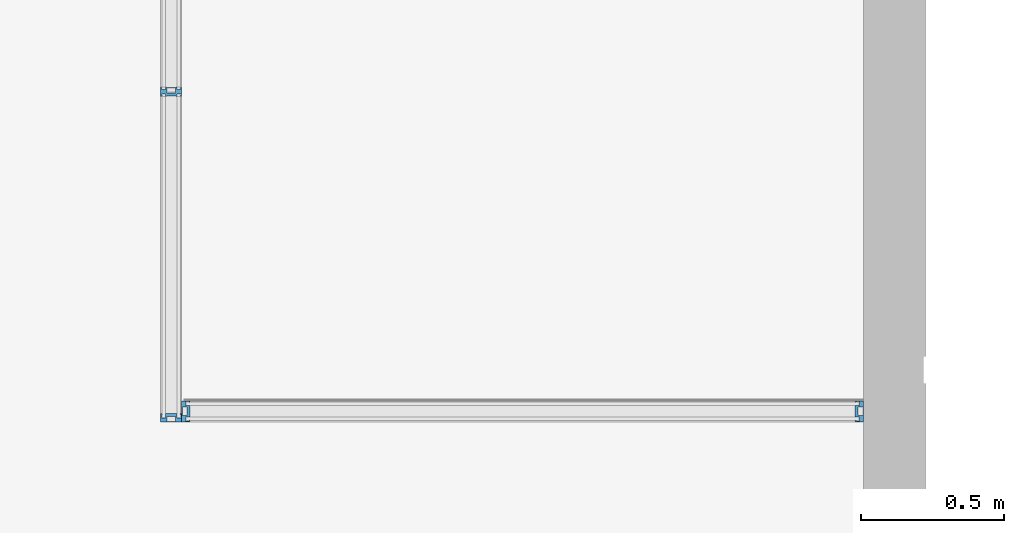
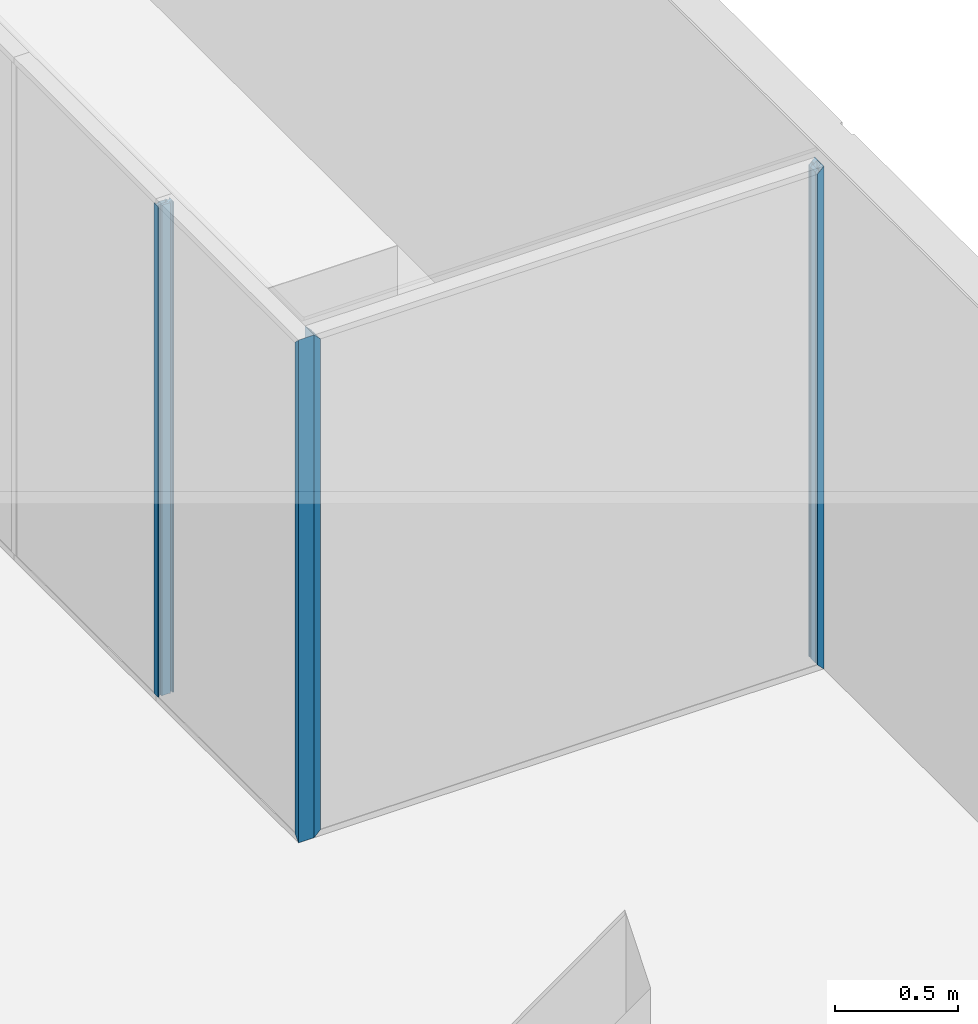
# One storey, part 4 of 79: 4 members, 2 elements without a shape of their own.
"""IFC2X3 building model written with IfcOpenShell, lengths in millimetres."""

from ifc_helpers import new_model, entity, si_unit, converted_unit, derived_unit, money_unit, direction, frame, origin_with_axes, place, context, subcontext, project, spatial, faceted_brep, source, transform, mapped, material, material_list, type_object, element, aggregate, save


model = new_model("IFC2X3")

# Units and contexts
model_context = context("Model", 3, precision=0.01, world=origin_with_axes(), true_north=direction((0.0, 1.0)))
body_context = subcontext(model_context, "Body", "Model", "MODEL_VIEW")
ifc_project = project(units=[si_unit("LENGTHUNIT", "METRE", prefix="MILLI"), si_unit("AREAUNIT", "SQUARE_METRE"), si_unit("VOLUMEUNIT", "CUBIC_METRE"), converted_unit("PLANEANGLEUNIT", "DEGREE", entity("IfcPlaneAngleMeasure", 0.0174532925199), si_unit("PLANEANGLEUNIT", "RADIAN"), dimensions=[0, 0, 0, 0, 0, 0, 0]), si_unit("SOLIDANGLEUNIT", "STERADIAN"), money_unit("EUR"), converted_unit("TIMEUNIT", "Year", entity("IfcTimeMeasure", 31556926.0), si_unit("TIMEUNIT", "SECOND"), dimensions=[0, 0, 1, 0, 0, 0, 0]), si_unit("MASSUNIT", "GRAM", prefix="KILO"), si_unit("THERMODYNAMICTEMPERATUREUNIT", "DEGREE_CELSIUS"), si_unit("LUMINOUSINTENSITYUNIT", "LUMEN"), si_unit("ENERGYUNIT", "JOULE", prefix="MEGA"), derived_unit("THERMALCONDUCTANCEUNIT", [(si_unit("POWERUNIT", "WATT"), 1), (si_unit("LENGTHUNIT", "METRE"), -1), (si_unit("THERMODYNAMICTEMPERATUREUNIT", "KELVIN"), -1)]), derived_unit("SPECIFICHEATCAPACITYUNIT", [(si_unit("ENERGYUNIT", "JOULE"), 1), (si_unit("MASSUNIT", "GRAM", prefix="KILO"), -1), (si_unit("THERMODYNAMICTEMPERATUREUNIT", "KELVIN"), -1)]), derived_unit("MASSDENSITYUNIT", [(si_unit("MASSUNIT", "GRAM", prefix="KILO"), 1), (si_unit("VOLUMEUNIT", "CUBIC_METRE"), -1)])], contexts=[model_context])

# Site, building, storey
site_placement = place(None, origin_with_axes())
site = spatial("IfcSite", under=ifc_project, at=site_placement, Name="L.Koidula tn 11b", CompositionType="ELEMENT")
building_placement = place(site_placement, origin_with_axes())
building = spatial("IfcBuilding", under=site, at=building_placement, Name="Rakvere Riigigümnaasium", CompositionType="ELEMENT")
storey_placement = place(building_placement, frame((0.0, 0.0, 3720.0), z_axis=(0.0, 0.0, 1.0), x_axis=(1.0, 0.0, 0.0)))
storey = spatial("IfcBuildingStorey", under=building, at=storey_placement, Name="2.korrus +3,72", CompositionType="ELEMENT", Elevation=3720.0)

# Curtain wall, member
curtain_wall_type = type_object("IfcCurtainWallType", Name="Curtain Wall Type", PredefinedType="NOTDEFINED")
curtain_wall_1_placement = place(storey_placement, frame((44568.0000786, 20404.7190306, -3.55964617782e-05), z_axis=(0.0, 0.0, 1.0), x_axis=(1.0, 0.0, 0.0)))
curtain_wall_1 = element("IfcCurtainWall", 1, at=curtain_wall_1_placement, inside=storey, type_object=curtain_wall_type, Name="SKLF-17")
ifc_material_1 = material(Name="Klaasvill")
ifc_material_2 = material(Name="Teras RAL7012")
ifc_material_list = material_list([ifc_material_1, ifc_material_2])
member_type_1 = type_object("IfcMemberType", Name="Siseklaasfassaad-Vaheprofiil-Doubleline30 34 x 42", PredefinedType="MULLION")
shared_shape_1 = source(origin_with_axes(), body_context, "Body", "Brep", [
    faceted_brep([(12.004489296, 27.0307503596, 30.0000193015), (12.004489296, 27.0307503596, 2463.00001629), (11.987414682, 29.0161444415, 2463.00001629), (11.987414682, 29.0161444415, 30.0000193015), (12.742237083, 26.2930025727, 30.0000193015), (12.742237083, 26.2930025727, 2463.00001629), (13.7500193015, 26.0229681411, 2463.00001629), (14.75780152, 26.2930025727, 2463.00001629), (15.4955493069, 27.0307503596, 2463.00001629), (15.7655837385, 28.0385325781, 2463.00001629), (15.5126239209, 29.0161444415, 2463.00001629), (15.5126239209, 29.0161444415, 30.0000193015), (15.7655837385, 28.0385325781, 30.0000193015), (15.4955493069, 27.0307503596, 30.0000193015), (14.75780152, 26.2930025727, 30.0000193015), (13.7500193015, 26.0229681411, 30.0000193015)], [[[0, 1, 2, 3]], [[4, 5, 1, 0]], [[2, 1, 5, 6, 7, 8, 9, 10]], [[3, 2, 10, 11]], [[3, 11, 12, 13, 14, 15, 4, 0]], [[15, 6, 5, 4]], [[14, 7, 6, 15]], [[13, 8, 7, 14]], [[12, 9, 8, 13]], [[11, 10, 9, 12]]]),
    faceted_brep([(15.4955493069, -37.0307503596, 30.0000193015), (15.4955493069, -37.0307503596, 2463.00001629), (15.5126239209, -39.0161444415, 2463.00001629), (15.5126239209, -39.0161444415, 30.0000193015), (14.75780152, -36.2930025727, 30.0000193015), (14.75780152, -36.2930025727, 2463.00001629), (13.7500193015, -36.0229681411, 2463.00001629), (12.742237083, -36.2930025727, 2463.00001629), (12.004489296, -37.0307503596, 2463.00001629), (11.7344548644, -38.0385325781, 2463.00001629), (11.987414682, -39.0161444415, 2463.00001629), (11.987414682, -39.0161444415, 30.0000193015), (11.7344548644, -38.0385325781, 30.0000193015), (12.004489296, -37.0307503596, 30.0000193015), (12.742237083, -36.2930025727, 30.0000193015), (13.7500193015, -36.0229681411, 30.0000193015)], [[[0, 1, 2, 3]], [[4, 5, 1, 0]], [[2, 1, 5, 6, 7, 8, 9, 10]], [[3, 2, 10, 11]], [[3, 11, 12, 13, 14, 15, 4, 0]], [[15, 6, 5, 4]], [[14, 7, 6, 15]], [[13, 8, 7, 14]], [[12, 9, 8, 13]], [[11, 10, 9, 12]]]),
    faceted_brep([(-15.7655837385, 28.0385325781, 30.0000193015), (-15.7655837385, 28.0385325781, 2463.00001629), (-11.987414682, 29.0161444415, 2463.00001629), (-11.987414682, 29.0161444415, 30.0000193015), (-15.4955493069, 27.0307503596, 30.0000193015), (-15.4955493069, 27.0307503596, 2463.00001629), (-14.75780152, 26.2930025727, 2463.00001629), (-13.7500193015, 26.0229681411, 2463.00001629), (-12.742237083, 26.2930025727, 2463.00001629), (-12.004489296, 27.0307503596, 2463.00001629), (-11.7344548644, 28.0385325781, 2463.00001629), (-11.7344548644, 28.0385325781, 30.0000193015), (-12.004489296, 27.0307503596, 30.0000193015), (-12.742237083, 26.2930025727, 30.0000193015), (-13.7500193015, 26.0229681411, 30.0000193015), (-14.75780152, 26.2930025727, 30.0000193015)], [[[0, 1, 2, 3]], [[4, 5, 1, 0]], [[2, 1, 5, 6, 7, 8, 9, 10]], [[3, 2, 10, 11]], [[3, 11, 12, 13, 14, 15, 4, 0]], [[15, 6, 5, 4]], [[14, 7, 6, 15]], [[13, 8, 7, 14]], [[12, 9, 8, 13]], [[11, 10, 9, 12]]]),
    faceted_brep([(-15.5126239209, -39.0161444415, 30.0000193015), (-15.5126239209, -39.0161444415, 2463.00001629), (-15.4955493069, -37.0307503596, 2463.00001629), (-15.4955493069, -37.0307503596, 30.0000193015), (-11.987414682, -39.0161444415, 30.0000193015), (-11.987414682, -39.0161444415, 2463.00001629), (-11.7344548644, -38.0385325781, 2463.00001629), (-12.004489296, -37.0307503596, 2463.00001629), (-12.742237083, -36.2930025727, 2463.00001629), (-13.7500193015, -36.0229681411, 2463.00001629), (-14.75780152, -36.2930025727, 2463.00001629), (-14.75780152, -36.2930025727, 30.0000193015), (-13.7500193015, -36.0229681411, 30.0000193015), (-12.742237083, -36.2930025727, 30.0000193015), (-12.004489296, -37.0307503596, 30.0000193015), (-11.7344548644, -38.0385325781, 30.0000193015)], [[[0, 1, 2, 3]], [[4, 5, 1, 0]], [[2, 1, 5, 6, 7, 8, 9, 10]], [[3, 2, 10, 11]], [[3, 11, 12, 13, 14, 15, 4, 0]], [[15, 6, 5, 4]], [[14, 7, 6, 15]], [[13, 8, 7, 14]], [[12, 9, 8, 13]], [[11, 10, 9, 12]]]),
    faceted_brep([(-3.08905781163e-07, -22.0000000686, 30.0000193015), (-3.08905781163e-07, -22.0000000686, 2463.00001629), (-14.8000001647, -22.0000000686, 2463.00001629), (-14.8000001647, -22.0000000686, 30.0000193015), (14.8000003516, -22.0000000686, 30.0000193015), (14.8000003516, -22.0000000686, 2463.00001629), (14.8000003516, 12.0000001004, 2463.00001629), (-3.08905781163e-07, 12.0000001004, 2463.00001629), (-14.8000001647, 12.0000001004, 2463.00001629), (-12.8000002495, 10.0000001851, 2463.00001629), (4.0000003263, 10.0000001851, 2463.00001629), (4.0000003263, -20.0000001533, 2463.00001629), (-12.8000002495, -20.0000001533, 2463.00001629), (-14.8000001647, 12.0000001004, 30.0000193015), (-3.08905781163e-07, 12.0000001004, 30.0000193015), (14.8000003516, 12.0000001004, 30.0000193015), (-12.8000002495, 10.0000001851, 30.0000193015), (-12.8000002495, -20.0000001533, 30.0000193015), (4.0000003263, -20.0000001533, 30.0000193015), (4.0000003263, 10.0000001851, 30.0000193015)], [[[0, 1, 2, 3]], [[4, 5, 1, 0]], [[2, 1, 5, 6, 7, 8], [9, 10, 11, 12]], [[3, 2, 8, 13]], [[3, 13, 14, 15, 4, 0], [16, 17, 18, 19]], [[15, 6, 5, 4]], [[14, 7, 6, 15]], [[13, 8, 7, 14]], [[19, 10, 9, 16]], [[18, 11, 10, 19]], [[17, 12, 11, 18]], [[16, 9, 12, 17]]]),
    faceted_brep([(0.0, 12.0, 30.0000193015), (0.0, 12.0, 2463.00001629), (0.0, 32.0000000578, 2463.00001629), (0.0, 32.0000000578, 30.0000193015), (14.8000003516, 12.0000001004, 30.0000193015), (14.8000003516, 12.0000001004, 2463.00001629), (17.0000193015, 12.0, 2463.00001629), (17.0000193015, 15.0000000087, 2463.00001629), (7.50000002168, 15.0000000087, 2463.00001629), (7.50000002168, 29.0161446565, 2463.00001629), (11.987414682, 29.0161444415, 2463.00001629), (15.5126239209, 29.0161444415, 2463.00001629), (17.0000193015, 29.0161446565, 2463.00001629), (17.0000193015, 32.0000000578, 2463.00001629), (17.0000193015, 32.0000000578, 30.0000193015), (17.0000193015, 29.0161446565, 30.0000193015), (15.5126239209, 29.0161444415, 30.0000193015), (11.987414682, 29.0161444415, 30.0000193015), (7.50000002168, 29.0161446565, 30.0000193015), (7.50000002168, 15.0000000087, 30.0000193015), (17.0000193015, 15.0000000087, 30.0000193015), (17.0000193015, 12.0, 30.0000193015)], [[[0, 1, 2, 3]], [[4, 5, 1, 0]], [[2, 1, 5, 6, 7, 8, 9, 10, 11, 12, 13]], [[3, 2, 13, 14]], [[3, 14, 15, 16, 17, 18, 19, 20, 21, 4, 0]], [[21, 6, 5, 4]], [[20, 7, 6, 21]], [[19, 8, 7, 20]], [[18, 9, 8, 19]], [[17, 10, 9, 18]], [[16, 11, 10, 17]], [[15, 12, 11, 16]], [[14, 13, 12, 15]]]),
    faceted_brep([(0.0, -42.0, 30.0000193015), (0.0, -42.0, 2463.00001629), (0.0, -21.9999999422, 2463.00001629), (0.0, -21.9999999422, 30.0000193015), (17.0000193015, -42.0, 30.0000193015), (17.0000193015, -42.0, 2463.00001629), (17.0000193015, -39.0161445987, 2463.00001629), (15.5126239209, -39.0161444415, 2463.00001629), (11.987414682, -39.0161444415, 2463.00001629), (7.50000002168, -39.0161445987, 2463.00001629), (7.50000002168, -24.9999999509, 2463.00001629), (17.0000193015, -24.9999999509, 2463.00001629), (17.0000193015, -21.9999999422, 2463.00001629), (14.8000003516, -22.0000000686, 2463.00001629), (14.8000003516, -22.0000000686, 30.0000193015), (17.0000193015, -21.9999999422, 30.0000193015), (17.0000193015, -24.9999999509, 30.0000193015), (7.50000002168, -24.9999999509, 30.0000193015), (7.50000002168, -39.0161445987, 30.0000193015), (11.987414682, -39.0161444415, 30.0000193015), (15.5126239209, -39.0161444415, 30.0000193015), (17.0000193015, -39.0161445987, 30.0000193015)], [[[0, 1, 2, 3]], [[4, 5, 1, 0]], [[2, 1, 5, 6, 7, 8, 9, 10, 11, 12, 13]], [[3, 2, 13, 14]], [[3, 14, 15, 16, 17, 18, 19, 20, 21, 4, 0]], [[21, 6, 5, 4]], [[20, 7, 6, 21]], [[19, 8, 7, 20]], [[18, 9, 8, 19]], [[17, 10, 9, 18]], [[16, 11, 10, 17]], [[15, 12, 11, 16]], [[14, 13, 12, 15]]]),
    faceted_brep([(0.0, 32.0, 30.0000193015), (0.0, 32.0, 2463.00001629), (0.0, 12.0, 2463.00001629), (0.0, 12.0, 30.0000193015), (-17.0000193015, 32.0, 30.0000193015), (-17.0000193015, 32.0, 2463.00001629), (-17.0000193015, 29.0161444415, 2463.00001629), (-15.5126239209, 29.0161444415, 2463.00001629), (-11.987414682, 29.0161444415, 2463.00001629), (-7.49999999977, 29.0161444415, 2463.00001629), (-7.49999999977, 15.0, 2463.00001629), (-17.0000193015, 15.0, 2463.00001629), (-17.0000193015, 12.0, 2463.00001629), (-14.8000001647, 12.0000001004, 2463.00001629), (-14.8000001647, 12.0000001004, 30.0000193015), (-17.0000193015, 12.0, 30.0000193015), (-17.0000193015, 15.0, 30.0000193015), (-7.49999999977, 15.0, 30.0000193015), (-7.49999999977, 29.0161444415, 30.0000193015), (-11.987414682, 29.0161444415, 30.0000193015), (-15.5126239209, 29.0161444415, 30.0000193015), (-17.0000193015, 29.0161444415, 30.0000193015)], [[[0, 1, 2, 3]], [[4, 5, 1, 0]], [[2, 1, 5, 6, 7, 8, 9, 10, 11, 12, 13]], [[3, 2, 13, 14]], [[3, 14, 15, 16, 17, 18, 19, 20, 21, 4, 0]], [[21, 6, 5, 4]], [[20, 7, 6, 21]], [[19, 8, 7, 20]], [[18, 9, 8, 19]], [[17, 10, 9, 18]], [[16, 11, 10, 17]], [[15, 12, 11, 16]], [[14, 13, 12, 15]]]),
    faceted_brep([(-14.8000001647, -22.0000000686, 30.0000193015), (-14.8000001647, -22.0000000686, 2463.00001629), (0.0, -22.0, 2463.00001629), (0.0, -22.0, 30.0000193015), (-17.0000193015, -22.0, 30.0000193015), (-17.0000193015, -22.0, 2463.00001629), (-17.0000193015, -25.0, 2463.00001629), (-7.49999999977, -25.0, 2463.00001629), (-7.49999999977, -39.0161444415, 2463.00001629), (-11.987414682, -39.0161444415, 2463.00001629), (-15.5126239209, -39.0161444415, 2463.00001629), (-17.0000193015, -39.0161444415, 2463.00001629), (-17.0000193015, -42.0, 2463.00001629), (0.0, -42.0, 2463.00001629), (0.0, -42.0, 30.0000193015), (-17.0000193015, -42.0, 30.0000193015), (-17.0000193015, -39.0161444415, 30.0000193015), (-15.5126239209, -39.0161444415, 30.0000193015), (-11.987414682, -39.0161444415, 30.0000193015), (-7.49999999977, -39.0161444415, 30.0000193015), (-7.49999999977, -25.0, 30.0000193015), (-17.0000193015, -25.0, 30.0000193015)], [[[0, 1, 2, 3]], [[4, 5, 1, 0]], [[2, 1, 5, 6, 7, 8, 9, 10, 11, 12, 13]], [[3, 2, 13, 14]], [[3, 14, 15, 16, 17, 18, 19, 20, 21, 4, 0]], [[21, 6, 5, 4]], [[20, 7, 6, 21]], [[19, 8, 7, 20]], [[18, 9, 8, 19]], [[17, 10, 9, 18]], [[16, 11, 10, 17]], [[15, 12, 11, 16]], [[14, 13, 12, 15]]]),
])
member_1_placement = place(curtain_wall_1_placement, frame((0.0, 578.5, 0.0), z_axis=(0.0, 0.0, 1.0), x_axis=(0.0, -1.0, 0.0)))
member_1 = element("IfcMember", 2, at=member_1_placement, type_object=member_type_1, material=ifc_material_list, Name="Frame-Siseklaasf-251", ObjectType="MULLION", context=body_context, shape_type="MappedRepresentation", body=[
    mapped(shared_shape_1, transform((0.0, 0.0, 0.0))),
])

curtain_wall_2_placement = place(storey_placement, frame((45794.9999935, 19868.2190306, 0.0), z_axis=(0.0, 0.0, 1.0), x_axis=(1.0, 0.0, 0.0)))
curtain_wall_2 = element("IfcCurtainWall", 3, at=curtain_wall_2_placement, inside=storey, type_object=curtain_wall_type, Name="SKLF-18")
member_type_2 = type_object("IfcMemberType", Name="Boundary Frame 30 x 42", PredefinedType="MULLION")
shared_shape_2 = source(origin_with_axes(), body_context, "Body", "Brep", [
    faceted_brep([(-13.8499999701, 15.000000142, 13.8499999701), (-7.49999990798, 15.000000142, 7.49999990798), (-7.49999990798, 15.000000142, 2485.50003569), (-13.8499999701, 15.000000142, 2479.15003563), (-13.8499999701, 29.0161444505, 13.8499999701), (-7.49999990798, 29.0161444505, 7.49999990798), (-7.49999990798, 29.0161444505, 2485.50003569), (-13.8499999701, 29.0161444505, 2479.15003563)], [[[0, 1, 2, 3]], [[1, 0, 4, 5]], [[1, 5, 6, 2]], [[2, 6, 7, 3]], [[4, 0, 3, 7]], [[5, 4, 7, 6]]]),
    faceted_brep([(-25.004489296, 27.0307503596, 25.004489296), (-24.987414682, 29.0161444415, 24.987414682), (-24.987414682, 29.0161444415, 2468.01262091), (-25.004489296, 27.0307503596, 2467.9955463), (-25.742237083, 26.2930025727, 25.742237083), (-26.7500193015, 26.0229681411, 26.7500193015), (-27.75780152, 26.2930025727, 27.75780152), (-28.4955493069, 27.0307503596, 28.4955493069), (-28.7655837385, 28.0385325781, 28.7655837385), (-28.5126239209, 29.0161444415, 28.5126239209), (-28.5126239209, 29.0161444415, 2464.48741168), (-28.7655837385, 28.0385325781, 2464.23445186), (-28.4955493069, 27.0307503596, 2464.50448629), (-27.75780152, 26.2930025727, 2465.24223408), (-26.7500193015, 26.0229681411, 2466.25001629), (-25.742237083, 26.2930025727, 2467.25779851)], [[[0, 1, 2, 3]], [[1, 0, 4, 5, 6, 7, 8, 9]], [[1, 9, 10, 2]], [[2, 10, 11, 12, 13, 14, 15, 3]], [[4, 0, 3, 15]], [[5, 4, 15, 14]], [[6, 5, 14, 13]], [[7, 6, 13, 12]], [[8, 7, 12, 11]], [[9, 8, 11, 10]]]),
    faceted_brep([(-7.49999990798, -39.0161445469, 7.49999990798), (-7.49999990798, -24.9999997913, 7.49999990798), (-7.49999990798, -24.9999997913, 2485.50003569), (-7.49999990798, -39.0161445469, 2485.50003569), (-13.8499999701, -39.0161445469, 13.8499999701), (-13.8499999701, -24.9999997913, 13.8499999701), (-13.8499999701, -24.9999997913, 2479.15003563), (-13.8499999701, -39.0161445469, 2479.15003563)], [[[0, 1, 2, 3]], [[1, 0, 4, 5]], [[1, 5, 6, 2]], [[2, 6, 7, 3]], [[4, 0, 3, 7]], [[5, 4, 7, 6]]]),
    faceted_brep([(-24.987414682, -39.0161444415, 24.987414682), (-25.004489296, -37.0307503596, 25.004489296), (-25.004489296, -37.0307503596, 2467.9955463), (-24.987414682, -39.0161444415, 2468.01262091), (-28.5126239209, -39.0161444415, 28.5126239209), (-28.7655837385, -38.0385325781, 28.7655837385), (-28.4955493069, -37.0307503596, 28.4955493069), (-27.75780152, -36.2930025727, 27.75780152), (-26.7500193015, -36.0229681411, 26.7500193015), (-25.742237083, -36.2930025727, 25.742237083), (-25.742237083, -36.2930025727, 2467.25779851), (-26.7500193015, -36.0229681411, 2466.25001629), (-27.75780152, -36.2930025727, 2465.24223408), (-28.4955493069, -37.0307503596, 2464.50448629), (-28.7655837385, -38.0385325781, 2464.23445186), (-28.5126239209, -39.0161444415, 2464.48741168)], [[[0, 1, 2, 3]], [[1, 0, 4, 5, 6, 7, 8, 9]], [[1, 9, 10, 2]], [[2, 10, 11, 12, 13, 14, 15, 3]], [[4, 0, 3, 15]], [[5, 4, 15, 14]], [[6, 5, 14, 13]], [[7, 6, 13, 12]], [[8, 7, 12, 11]], [[9, 8, 11, 10]]]),
    faceted_brep([(-29.5999996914, -22.0000000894, 29.5999996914), (0.0, -22.0000000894, 0.0), (0.0, -22.0000000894, 2493.0000356), (-29.5999996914, -22.0000000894, 2463.40003591), (-29.5999996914, 12.0000000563, 29.5999996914), (0.0, 12.0000000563, 0.0), (-1.9999999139, 10.0000001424, 1.9999999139), (-18.7999996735, 10.0000001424, 18.7999996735), (-18.7999996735, -20.0000001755, 18.7999996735), (-1.9999999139, -20.0000001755, 1.9999999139), (0.0, 12.0000000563, 2493.0000356), (-29.5999996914, 12.0000000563, 2463.40003591), (-1.9999999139, 10.0000001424, 2491.00003568), (-1.9999999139, -20.0000001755, 2491.00003568), (-18.7999996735, -20.0000001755, 2474.20003592), (-18.7999996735, 10.0000001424, 2474.20003592)], [[[0, 1, 2, 3]], [[1, 0, 4, 5], [6, 7, 8, 9]], [[1, 5, 10, 2]], [[2, 10, 11, 3], [12, 13, 14, 15]], [[4, 0, 3, 11]], [[5, 4, 11, 10]], [[7, 6, 12, 15]], [[8, 7, 15, 14]], [[9, 8, 14, 13]], [[6, 9, 13, 12]]]),
    faceted_brep([(-29.5999996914, 12.0000000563, 29.5999996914), (0.0, 12.0, 0.0), (0.0, 12.0, 2493.0000356), (-29.5999996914, 12.0000000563, 2463.40003591), (-30.0000193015, 12.0, 30.0000193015), (-30.0000193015, 15.0, 30.0000193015), (-13.8499999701, 15.000000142, 13.8499999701), (-7.49999999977, 15.0, 7.49999999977), (-7.49999999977, 29.0161444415, 7.49999999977), (-13.8499999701, 29.0161444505, 13.8499999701), (-24.987414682, 29.0161444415, 24.987414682), (-28.5126239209, 29.0161444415, 28.5126239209), (-30.0000193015, 29.0161444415, 30.0000193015), (-30.0000193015, 32.0, 30.0000193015), (0.0, 32.0, 0.0), (0.0, 32.0, 2493.0000356), (-30.0000193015, 32.0, 2463.00001629), (-30.0000193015, 29.0161444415, 2463.00001629), (-28.5126239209, 29.0161444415, 2464.48741168), (-24.987414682, 29.0161444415, 2468.01262091), (-13.8499999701, 29.0161444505, 2479.15003563), (-7.49999999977, 29.0161444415, 2485.5000356), (-7.49999999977, 15.0, 2485.5000356), (-13.8499999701, 15.000000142, 2479.15003563), (-30.0000193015, 15.0, 2463.00001629), (-30.0000193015, 12.0, 2463.00001629)], [[[0, 1, 2, 3]], [[1, 0, 4, 5, 6, 7, 8, 9, 10, 11, 12, 13, 14]], [[1, 14, 15, 2]], [[2, 15, 16, 17, 18, 19, 20, 21, 22, 23, 24, 25, 3]], [[4, 0, 3, 25]], [[5, 4, 25, 24]], [[6, 5, 24, 23]], [[7, 6, 23, 22]], [[8, 7, 22, 21]], [[9, 8, 21, 20]], [[10, 9, 20, 19]], [[11, 10, 19, 18]], [[12, 11, 18, 17]], [[13, 12, 17, 16]], [[14, 13, 16, 15]]]),
    faceted_brep([(0.0, -42.0, 0.0), (0.0, -22.0, 0.0), (0.0, -22.0, 2493.0000356), (0.0, -42.0, 2493.0000356), (-30.0000193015, -42.0, 30.0000193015), (-30.0000193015, -39.0161444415, 30.0000193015), (-28.5126239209, -39.0161444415, 28.5126239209), (-24.987414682, -39.0161444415, 24.987414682), (-13.8499999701, -39.0161445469, 13.8499999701), (-7.49999999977, -39.0161444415, 7.49999999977), (-7.49999999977, -25.0, 7.49999999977), (-13.8499999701, -24.9999997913, 13.8499999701), (-30.0000193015, -25.0, 30.0000193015), (-30.0000193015, -22.0, 30.0000193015), (-29.5999996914, -22.0000000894, 29.5999996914), (-29.5999996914, -22.0000000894, 2463.40003591), (-30.0000193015, -22.0, 2463.00001629), (-30.0000193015, -25.0, 2463.00001629), (-13.8499999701, -24.9999997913, 2479.15003563), (-7.49999999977, -25.0, 2485.5000356), (-7.49999999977, -39.0161444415, 2485.5000356), (-13.8499999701, -39.0161445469, 2479.15003563), (-24.987414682, -39.0161444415, 2468.01262091), (-28.5126239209, -39.0161444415, 2464.48741168), (-30.0000193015, -39.0161444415, 2463.00001629), (-30.0000193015, -42.0, 2463.00001629)], [[[0, 1, 2, 3]], [[1, 0, 4, 5, 6, 7, 8, 9, 10, 11, 12, 13, 14]], [[1, 14, 15, 2]], [[2, 15, 16, 17, 18, 19, 20, 21, 22, 23, 24, 25, 3]], [[4, 0, 3, 25]], [[5, 4, 25, 24]], [[6, 5, 24, 23]], [[7, 6, 23, 22]], [[8, 7, 22, 21]], [[9, 8, 21, 20]], [[10, 9, 20, 19]], [[11, 10, 19, 18]], [[12, 11, 18, 17]], [[13, 12, 17, 16]], [[14, 13, 16, 15]]]),
])
member_2_placement = place(curtain_wall_2_placement, frame((1195.0, 0.0, 0.0), z_axis=(0.0, 0.0, 1.0), x_axis=(1.0, 0.0, 0.0)))
member_2 = element("IfcMember", 4, at=member_2_placement, type_object=member_type_2, material=ifc_material_list, Name="SKLF-18-raam", ObjectType="MULLION", context=body_context, shape_type="MappedRepresentation", body=[
    mapped(shared_shape_2, transform((0.0, 0.0, 0.0))),
])

# Member
member_3_placement = place(curtain_wall_1_placement, frame((0.0, -578.5, 0.0), z_axis=(0.0, 0.0, 1.0), x_axis=(0.0, -1.0, 0.0)))
member_3 = element("IfcMember", 5, at=member_3_placement, type_object=member_type_2, material=ifc_material_list, Name="SKLF-66-raam", ObjectType="MULLION", context=body_context, shape_type="MappedRepresentation", body=[
    mapped(shared_shape_2, transform((0.0, 0.0, 0.0))),
])

aggregate(curtain_wall_1, [member_3, member_1])

shared_shape_3 = source(origin_with_axes(), body_context, "Body", "Brep", [
    faceted_brep([(13.8499999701, 15.000000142, 13.8499999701), (13.8499999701, 15.000000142, 2479.15003563), (7.49999990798, 15.000000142, 2485.50003569), (7.49999990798, 15.000000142, 7.49999990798), (13.8499999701, 29.0161444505, 13.8499999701), (13.8499999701, 29.0161444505, 2479.15003563), (7.49999990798, 29.0161444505, 2485.50003569), (7.49999990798, 29.0161444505, 7.49999990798)], [[[0, 1, 2, 3]], [[4, 5, 1, 0]], [[2, 1, 5, 6]], [[3, 2, 6, 7]], [[3, 7, 4, 0]], [[7, 6, 5, 4]]]),
    faceted_brep([(25.004489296, 27.0307503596, 25.004489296), (25.004489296, 27.0307503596, 2467.9955463), (24.987414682, 29.0161444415, 2468.01262091), (24.987414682, 29.0161444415, 24.987414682), (25.742237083, 26.2930025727, 25.742237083), (25.742237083, 26.2930025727, 2467.25779851), (26.7500193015, 26.0229681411, 2466.25001629), (27.75780152, 26.2930025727, 2465.24223408), (28.4955493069, 27.0307503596, 2464.50448629), (28.7655837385, 28.0385325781, 2464.23445186), (28.5126239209, 29.0161444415, 2464.48741168), (28.5126239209, 29.0161444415, 28.5126239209), (28.7655837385, 28.0385325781, 28.7655837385), (28.4955493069, 27.0307503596, 28.4955493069), (27.75780152, 26.2930025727, 27.75780152), (26.7500193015, 26.0229681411, 26.7500193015)], [[[0, 1, 2, 3]], [[4, 5, 1, 0]], [[2, 1, 5, 6, 7, 8, 9, 10]], [[3, 2, 10, 11]], [[3, 11, 12, 13, 14, 15, 4, 0]], [[15, 6, 5, 4]], [[14, 7, 6, 15]], [[13, 8, 7, 14]], [[12, 9, 8, 13]], [[11, 10, 9, 12]]]),
    faceted_brep([(7.49999990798, -39.0161445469, 7.49999990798), (7.49999990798, -39.0161445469, 2485.50003569), (7.49999990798, -24.9999997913, 2485.50003569), (7.49999990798, -24.9999997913, 7.49999990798), (13.8499999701, -39.0161445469, 13.8499999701), (13.8499999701, -39.0161445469, 2479.15003563), (13.8499999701, -24.9999997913, 2479.15003563), (13.8499999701, -24.9999997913, 13.8499999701)], [[[0, 1, 2, 3]], [[4, 5, 1, 0]], [[2, 1, 5, 6]], [[3, 2, 6, 7]], [[3, 7, 4, 0]], [[7, 6, 5, 4]]]),
    faceted_brep([(24.987414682, -39.0161444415, 24.987414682), (24.987414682, -39.0161444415, 2468.01262091), (25.004489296, -37.0307503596, 2467.9955463), (25.004489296, -37.0307503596, 25.004489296), (28.5126239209, -39.0161444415, 28.5126239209), (28.5126239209, -39.0161444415, 2464.48741168), (28.7655837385, -38.0385325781, 2464.23445186), (28.4955493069, -37.0307503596, 2464.50448629), (27.75780152, -36.2930025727, 2465.24223408), (26.7500193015, -36.0229681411, 2466.25001629), (25.742237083, -36.2930025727, 2467.25779851), (25.742237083, -36.2930025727, 25.742237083), (26.7500193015, -36.0229681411, 26.7500193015), (27.75780152, -36.2930025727, 27.75780152), (28.4955493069, -37.0307503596, 28.4955493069), (28.7655837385, -38.0385325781, 28.7655837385)], [[[0, 1, 2, 3]], [[4, 5, 1, 0]], [[2, 1, 5, 6, 7, 8, 9, 10]], [[3, 2, 10, 11]], [[3, 11, 12, 13, 14, 15, 4, 0]], [[15, 6, 5, 4]], [[14, 7, 6, 15]], [[13, 8, 7, 14]], [[12, 9, 8, 13]], [[11, 10, 9, 12]]]),
    faceted_brep([(29.5999996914, -22.0000000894, 29.5999996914), (29.5999996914, -22.0000000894, 2463.40003591), (0.0, -22.0000000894, 2493.0000356), (0.0, -22.0000000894, 0.0), (29.5999996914, 12.0000000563, 29.5999996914), (29.5999996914, 12.0000000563, 2463.40003591), (0.0, 12.0000000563, 2493.0000356), (1.9999999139, 10.0000001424, 2491.00003568), (18.7999996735, 10.0000001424, 2474.20003592), (18.7999996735, -20.0000001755, 2474.20003592), (1.9999999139, -20.0000001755, 2491.00003568), (0.0, 12.0000000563, 0.0), (1.9999999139, 10.0000001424, 1.9999999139), (1.9999999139, -20.0000001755, 1.9999999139), (18.7999996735, -20.0000001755, 18.7999996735), (18.7999996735, 10.0000001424, 18.7999996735)], [[[0, 1, 2, 3]], [[4, 5, 1, 0]], [[2, 1, 5, 6], [7, 8, 9, 10]], [[3, 2, 6, 11]], [[3, 11, 4, 0], [12, 13, 14, 15]], [[11, 6, 5, 4]], [[15, 8, 7, 12]], [[14, 9, 8, 15]], [[13, 10, 9, 14]], [[12, 7, 10, 13]]]),
    faceted_brep([(29.5999996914, 12.0000000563, 29.5999996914), (29.5999996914, 12.0000000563, 2463.40003591), (0.0, 12.0, 2493.0000356), (0.0, 12.0, 0.0), (30.0000193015, 12.0, 30.0000193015), (30.0000193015, 12.0, 2463.00001629), (30.0000193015, 15.0, 2463.00001629), (13.8499999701, 15.000000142, 2479.15003563), (7.49999999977, 15.0, 2485.5000356), (7.49999999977, 29.0161444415, 2485.5000356), (13.8499999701, 29.0161444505, 2479.15003563), (24.987414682, 29.0161444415, 2468.01262091), (28.5126239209, 29.0161444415, 2464.48741168), (30.0000193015, 29.0161444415, 2463.00001629), (30.0000193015, 32.0, 2463.00001629), (0.0, 32.0, 2493.0000356), (0.0, 32.0, 0.0), (30.0000193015, 32.0, 30.0000193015), (30.0000193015, 29.0161444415, 30.0000193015), (28.5126239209, 29.0161444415, 28.5126239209), (24.987414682, 29.0161444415, 24.987414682), (13.8499999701, 29.0161444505, 13.8499999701), (7.49999999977, 29.0161444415, 7.49999999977), (7.49999999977, 15.0, 7.49999999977), (13.8499999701, 15.000000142, 13.8499999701), (30.0000193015, 15.0, 30.0000193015)], [[[0, 1, 2, 3]], [[4, 5, 1, 0]], [[2, 1, 5, 6, 7, 8, 9, 10, 11, 12, 13, 14, 15]], [[3, 2, 15, 16]], [[3, 16, 17, 18, 19, 20, 21, 22, 23, 24, 25, 4, 0]], [[25, 6, 5, 4]], [[24, 7, 6, 25]], [[23, 8, 7, 24]], [[22, 9, 8, 23]], [[21, 10, 9, 22]], [[20, 11, 10, 21]], [[19, 12, 11, 20]], [[18, 13, 12, 19]], [[17, 14, 13, 18]], [[16, 15, 14, 17]]]),
    faceted_brep([(0.0, -42.0, 0.0), (0.0, -42.0, 2493.0000356), (0.0, -22.0, 2493.0000356), (0.0, -22.0, 0.0), (30.0000193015, -42.0, 30.0000193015), (30.0000193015, -42.0, 2463.00001629), (30.0000193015, -39.0161444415, 2463.00001629), (28.5126239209, -39.0161444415, 2464.48741168), (24.987414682, -39.0161444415, 2468.01262091), (13.8499999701, -39.0161445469, 2479.15003563), (7.49999999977, -39.0161444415, 2485.5000356), (7.49999999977, -25.0, 2485.5000356), (13.8499999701, -24.9999997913, 2479.15003563), (30.0000193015, -25.0, 2463.00001629), (30.0000193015, -22.0, 2463.00001629), (29.5999996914, -22.0000000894, 2463.40003591), (29.5999996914, -22.0000000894, 29.5999996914), (30.0000193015, -22.0, 30.0000193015), (30.0000193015, -25.0, 30.0000193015), (13.8499999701, -24.9999997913, 13.8499999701), (7.49999999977, -25.0, 7.49999999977), (7.49999999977, -39.0161444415, 7.49999999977), (13.8499999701, -39.0161445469, 13.8499999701), (24.987414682, -39.0161444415, 24.987414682), (28.5126239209, -39.0161444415, 28.5126239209), (30.0000193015, -39.0161444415, 30.0000193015)], [[[0, 1, 2, 3]], [[4, 5, 1, 0]], [[2, 1, 5, 6, 7, 8, 9, 10, 11, 12, 13, 14, 15]], [[3, 2, 15, 16]], [[3, 16, 17, 18, 19, 20, 21, 22, 23, 24, 25, 4, 0]], [[25, 6, 5, 4]], [[24, 7, 6, 25]], [[23, 8, 7, 24]], [[22, 9, 8, 23]], [[21, 10, 9, 22]], [[20, 11, 10, 21]], [[19, 12, 11, 20]], [[18, 13, 12, 19]], [[17, 14, 13, 18]], [[16, 15, 14, 17]]]),
])
member_4_placement = place(curtain_wall_2_placement, frame((-1195.0, 0.0, 0.0), z_axis=(0.0, 0.0, 1.0), x_axis=(1.0, 0.0, 0.0)))
member_4 = element("IfcMember", 6, at=member_4_placement, type_object=member_type_2, material=ifc_material_list, Name="SKLF-18-raam", ObjectType="MULLION", context=body_context, shape_type="MappedRepresentation", body=[
    mapped(shared_shape_3, transform((0.0, 0.0, 0.0))),
])

aggregate(curtain_wall_2, [member_2, member_4])

save(model, "model.ifc")
